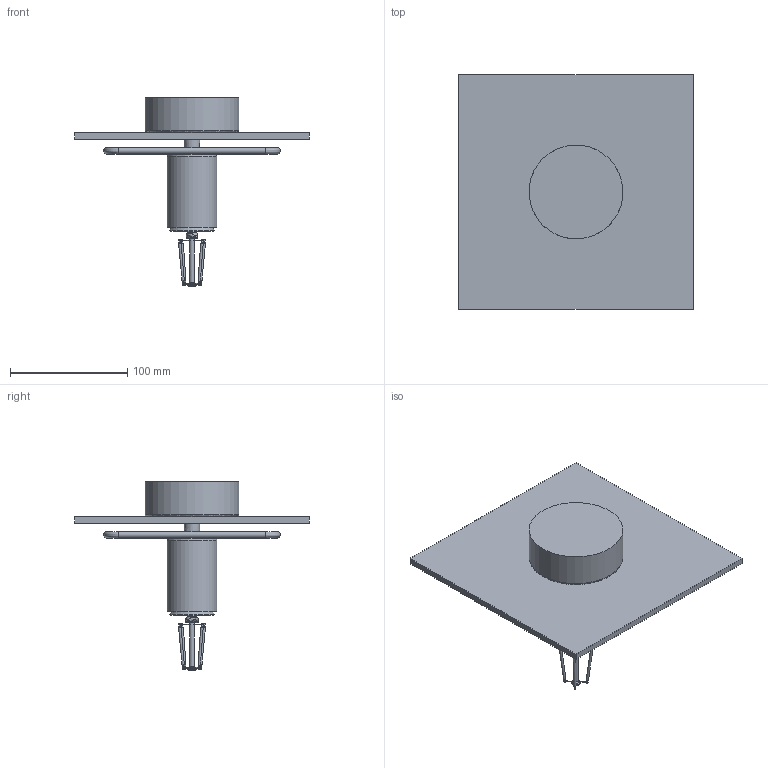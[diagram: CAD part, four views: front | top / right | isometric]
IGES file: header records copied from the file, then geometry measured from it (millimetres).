
Start section: SolidWorks IGES file using analytic representation for surfaces
Global section: file name: X:\PRODUKT\Modele 3D_WWW\_KOLEKCJE WWW\COBA-ANTIQUE\COBA-ANTIQUE-I-9042\COBA-ANTIQUE-I-9042.IGS; native system: SolidWorks 2021; preprocessor: SolidWorks 2021; author: gabriela.tworek; date: 221208.084132; units: millimetre
Bounding box: 200 x 200 x 160.84 mm (x, y, z)
Surface area: 132968.8 mm2 (no closed solid volume)
Topology: 0 solids, 1 shells, 149 faces, 619 edges, 544 vertices
Faces by surface type: revolution 76, bspline 73
